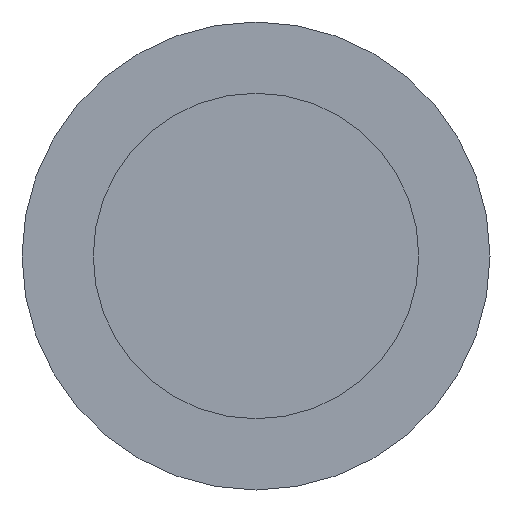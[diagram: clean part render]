
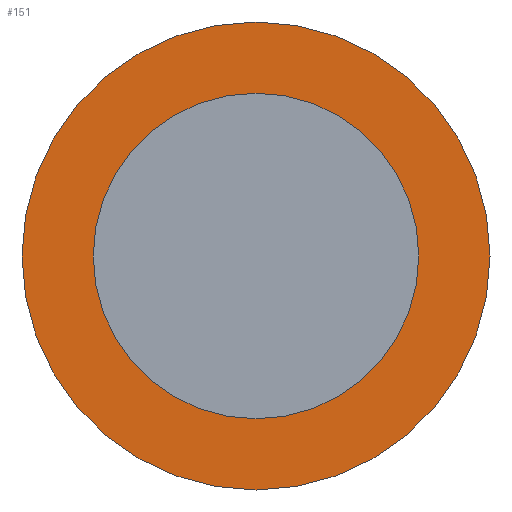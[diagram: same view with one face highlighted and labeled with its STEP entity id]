
A CAD part, front view. The second image highlights one B-rep face of the part: STEP entity #151.
In plain terms, the highlighted planar face has unit normal (0, -1, 0).
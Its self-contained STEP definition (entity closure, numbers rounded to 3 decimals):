
#2 = VERTEX_POINT ( 'NONE', #157 ) ;
#5 = EDGE_CURVE ( 'NONE', #227, #202, #331, .T. ) ;
#12 = PLANE ( 'NONE',  #84 ) ;
#31 = DIRECTION ( 'NONE',  ( 0., 0., -1. ) ) ;
#41 = CARTESIAN_POINT ( 'NONE',  ( 0., 24., 0. ) ) ;
#49 = ORIENTED_EDGE ( 'NONE', *, *, #379, .T. ) ;
#51 = FACE_BOUND ( 'NONE', #87, .T. ) ;
#72 = CARTESIAN_POINT ( 'NONE',  ( 0., 24., 10.35 ) ) ;
#84 = AXIS2_PLACEMENT_3D ( 'NONE', #223, #97, #122 ) ;
#87 = EDGE_LOOP ( 'NONE', ( #112, #167 ) ) ;
#90 = AXIS2_PLACEMENT_3D ( 'NONE', #156, #364, #329 ) ;
#93 = FACE_OUTER_BOUND ( 'NONE', #343, .T. ) ;
#97 = DIRECTION ( 'NONE',  ( 0., -1., 0. ) ) ;
#104 = ORIENTED_EDGE ( 'NONE', *, *, #290, .T. ) ;
#112 = ORIENTED_EDGE ( 'NONE', *, *, #5, .F. ) ;
#122 = DIRECTION ( 'NONE',  ( 0., 0., -1. ) ) ;
#144 = VERTEX_POINT ( 'NONE', #72 ) ;
#147 = CARTESIAN_POINT ( 'NONE',  ( 0., 24., 0. ) ) ;
#151 = ADVANCED_FACE ( 'NONE', ( #93, #51 ), #12, .T. ) ;
#156 = CARTESIAN_POINT ( 'NONE',  ( 0., 24., 0. ) ) ;
#157 = CARTESIAN_POINT ( 'NONE',  ( 0., 24., -10.35 ) ) ;
#166 = DIRECTION ( 'NONE',  ( 0., 0., -1. ) ) ;
#167 = ORIENTED_EDGE ( 'NONE', *, *, #239, .F. ) ;
#176 = AXIS2_PLACEMENT_3D ( 'NONE', #197, #196, #166 ) ;
#182 = AXIS2_PLACEMENT_3D ( 'NONE', #147, #296, #31 ) ;
#191 = DIRECTION ( 'NONE',  ( 0., 0., -1. ) ) ;
#196 = DIRECTION ( 'NONE',  ( 0., -1., 0. ) ) ;
#197 = CARTESIAN_POINT ( 'NONE',  ( 0., 24., 0. ) ) ;
#202 = VERTEX_POINT ( 'NONE', #370 ) ;
#223 = CARTESIAN_POINT ( 'NONE',  ( 10.35, 24., 0. ) ) ;
#227 = VERTEX_POINT ( 'NONE', #285 ) ;
#239 = EDGE_CURVE ( 'NONE', #202, #227, #265, .T. ) ;
#265 = CIRCLE ( 'NONE', #176, 7.2 ) ;
#279 = DIRECTION ( 'NONE',  ( 0., -1., 0. ) ) ;
#285 = CARTESIAN_POINT ( 'NONE',  ( 0., 24., -7.2 ) ) ;
#290 = EDGE_CURVE ( 'NONE', #2, #144, #324, .T. ) ;
#296 = DIRECTION ( 'NONE',  ( 0., -1., 0. ) ) ;
#306 = AXIS2_PLACEMENT_3D ( 'NONE', #41, #279, #191 ) ;
#324 = CIRCLE ( 'NONE', #306, 10.35 ) ;
#329 = DIRECTION ( 'NONE',  ( 0., 0., -1. ) ) ;
#331 = CIRCLE ( 'NONE', #90, 7.2 ) ;
#343 = EDGE_LOOP ( 'NONE', ( #104, #49 ) ) ;
#354 = CIRCLE ( 'NONE', #182, 10.35 ) ;
#364 = DIRECTION ( 'NONE',  ( 0., -1., 0. ) ) ;
#370 = CARTESIAN_POINT ( 'NONE',  ( 0., 24., 7.2 ) ) ;
#379 = EDGE_CURVE ( 'NONE', #144, #2, #354, .T. ) ;
